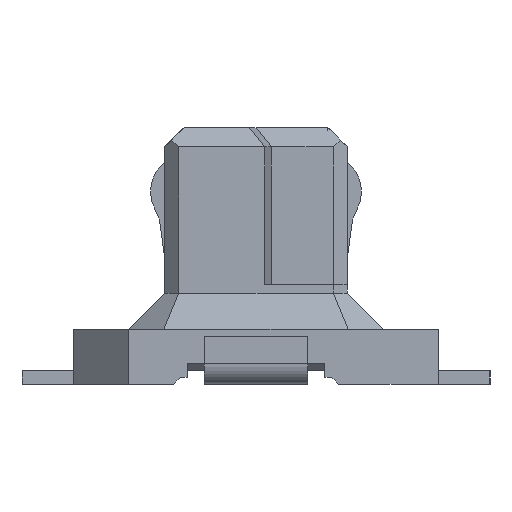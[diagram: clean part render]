
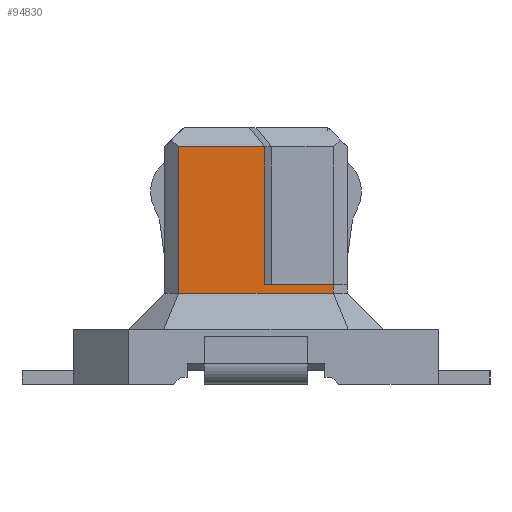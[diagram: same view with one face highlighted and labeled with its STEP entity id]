
A CAD part, left-side view. The second image highlights one B-rep face of the part: STEP entity #94830.
In plain terms, the highlighted planar face has unit normal (-1, 0, 0).
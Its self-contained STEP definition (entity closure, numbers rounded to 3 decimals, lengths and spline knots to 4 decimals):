
#66430=CARTESIAN_POINT('',(7.923,-3.166,1.45));
#66440=VERTEX_POINT('',#66430);
#66470=CARTESIAN_POINT('',(7.923,0.,1.45));
#66480=DIRECTION('',(0.,1.,0.));
#66490=VECTOR('',#66480,1.);
#66500=LINE('',#66470,#66490);
#66510=CARTESIAN_POINT('',(7.923,-2.166,1.45));
#66520=VERTEX_POINT('',#66510);
#66530=EDGE_CURVE('',#66440,#66520,#66500,.T.);
#67650=CARTESIAN_POINT('',(7.923,-0.916,3.45));
#67660=VERTEX_POINT('',#67650);
#67690=CARTESIAN_POINT('',(7.923,-0.916,0.8));
#67700=DIRECTION('',(0.,0.,1.));
#67710=VECTOR('',#67700,1.);
#67720=LINE('',#67690,#67710);
#67730=CARTESIAN_POINT('',(7.923,-0.916,1.325));
#67740=VERTEX_POINT('',#67730);
#67750=EDGE_CURVE('',#67740,#67660,#67720,.T.);
#68040=CARTESIAN_POINT('',(7.923,-3.166,1.325));
#68050=VERTEX_POINT('',#68040);
#68360=CARTESIAN_POINT('',(7.923,-2.041,1.325));
#68370=DIRECTION('',(0.,-1.,0.));
#68380=VECTOR('',#68370,1.);
#68390=LINE('',#68360,#68380);
#68400=EDGE_CURVE('',#67740,#68050,#68390,.T.);
#68680=CARTESIAN_POINT('',(7.923,-3.166,0.8));
#68690=DIRECTION('',(0.,0.,1.));
#68700=VECTOR('',#68690,1.);
#68710=LINE('',#68680,#68700);
#68720=EDGE_CURVE('',#68050,#66440,#68710,.T.);
#94580=CARTESIAN_POINT('',(7.923,-2.166,1.35));
#94590=DIRECTION('',(1.,0.,0.));
#94600=DIRECTION('',(0.,-1.,0.));
#94610=AXIS2_PLACEMENT_3D('',#94580,#94590,#94600);
#94620=PLANE('',#94610);
#94630=CARTESIAN_POINT('',(7.923,0.,3.45));
#94640=DIRECTION('',(0.,1.,0.));
#94650=VECTOR('',#94640,1.);
#94660=LINE('',#94630,#94650);
#94670=CARTESIAN_POINT('',(7.923,-2.166,3.45));
#94680=VERTEX_POINT('',#94670);
#94690=EDGE_CURVE('',#94680,#67660,#94660,.T.);
#94700=ORIENTED_EDGE('',*,*,#94690,.T.);
#94710=CARTESIAN_POINT('',(7.923,-2.166,0.));
#94720=DIRECTION('',(0.,0.,-1.));
#94730=VECTOR('',#94720,1.);
#94740=LINE('',#94710,#94730);
#94750=EDGE_CURVE('',#94680,#66520,#94740,.T.);
#94760=ORIENTED_EDGE('',*,*,#94750,.F.);
#94770=ORIENTED_EDGE('',*,*,#66530,.T.);
#94780=ORIENTED_EDGE('',*,*,#68720,.T.);
#94790=ORIENTED_EDGE('',*,*,#68400,.T.);
#94800=ORIENTED_EDGE('',*,*,#67750,.F.);
#94810=EDGE_LOOP('',(#94800,#94790,#94780,#94770,#94760,#94700));
#94820=FACE_OUTER_BOUND('',#94810,.T.);
#94830=ADVANCED_FACE('',(#94820),#94620,.F.);
